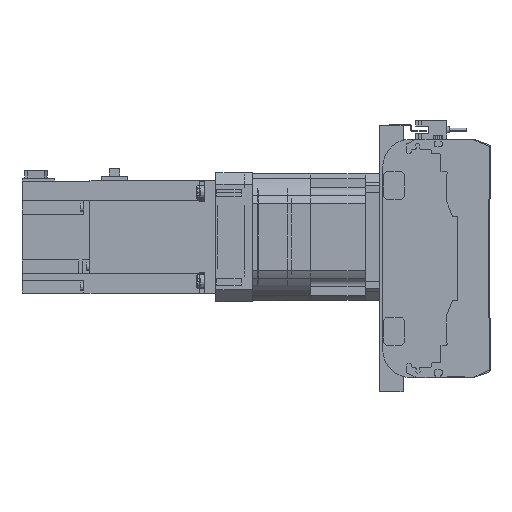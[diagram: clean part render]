
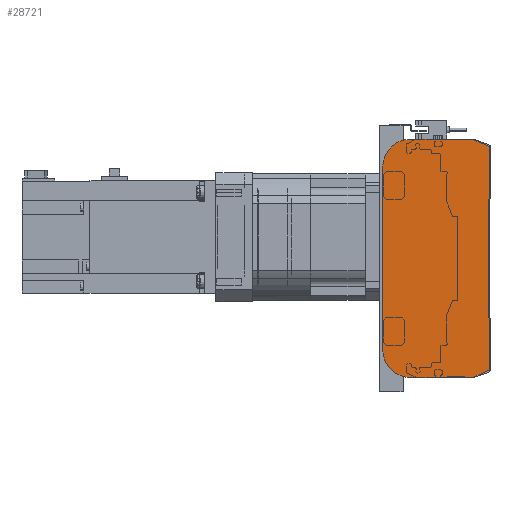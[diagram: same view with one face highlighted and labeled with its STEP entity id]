
A CAD part, left-side view. The second image highlights one B-rep face of the part: STEP entity #28721.
In plain terms, the highlighted planar face has unit normal (-1, 0, 0).
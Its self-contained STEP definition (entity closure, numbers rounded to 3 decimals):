
#2301=CIRCLE('',#31405,2.);
#2302=CIRCLE('',#31408,2.);
#2303=CIRCLE('',#31411,20.);
#2304=CIRCLE('',#31414,20.);
#8202=ORIENTED_EDGE('',*,*,#13903,.F.);
#8203=ORIENTED_EDGE('',*,*,#13981,.F.);
#8204=ORIENTED_EDGE('',*,*,#13979,.F.);
#8205=ORIENTED_EDGE('',*,*,#13977,.F.);
#8206=ORIENTED_EDGE('',*,*,#13640,.F.);
#8207=ORIENTED_EDGE('',*,*,#13976,.F.);
#8208=ORIENTED_EDGE('',*,*,#13974,.F.);
#8209=ORIENTED_EDGE('',*,*,#13972,.F.);
#8210=ORIENTED_EDGE('',*,*,#13970,.F.);
#8211=ORIENTED_EDGE('',*,*,#13968,.F.);
#13640=EDGE_CURVE('',#16814,#16815,#19224,.T.);
#13903=EDGE_CURVE('',#16886,#16887,#19338,.T.);
#13968=EDGE_CURVE('',#16887,#16928,#19383,.T.);
#13970=EDGE_CURVE('',#16928,#16929,#2301,.T.);
#13972=EDGE_CURVE('',#16929,#16930,#19386,.T.);
#13974=EDGE_CURVE('',#16930,#16931,#2302,.T.);
#13976=EDGE_CURVE('',#16931,#16814,#19389,.T.);
#13977=EDGE_CURVE('',#16815,#16932,#2303,.T.);
#13979=EDGE_CURVE('',#16932,#16933,#19391,.T.);
#13981=EDGE_CURVE('',#16933,#16886,#2304,.T.);
#16814=VERTEX_POINT('',#48814);
#16815=VERTEX_POINT('',#48816);
#16886=VERTEX_POINT('',#49202);
#16887=VERTEX_POINT('',#49204);
#16928=VERTEX_POINT('',#49334);
#16929=VERTEX_POINT('',#49338);
#16930=VERTEX_POINT('',#49342);
#16931=VERTEX_POINT('',#49346);
#16932=VERTEX_POINT('',#49352);
#16933=VERTEX_POINT('',#49356);
#19224=LINE('',#48815,#21533);
#19338=LINE('',#49203,#21647);
#19383=LINE('',#49333,#21692);
#19386=LINE('',#49341,#21695);
#19389=LINE('',#49349,#21698);
#19391=LINE('',#49355,#21700);
#21533=VECTOR('',#37975,1000.);
#21647=VECTOR('',#38493,1000.);
#21692=VECTOR('',#38626,1000.);
#21695=VECTOR('',#38635,1000.);
#21698=VECTOR('',#38644,1000.);
#21700=VECTOR('',#38652,1000.);
#23520=EDGE_LOOP('',(#8202,#8203,#8204,#8205,#8206,#8207,#8208,#8209,#8210,
#8211));
#25897=FACE_BOUND('',#23520,.T.);
#27334=PLANE('',#31416);
#28721=ADVANCED_FACE('',(#25897),#27334,.F.);
#31405=AXIS2_PLACEMENT_3D('',#49337,#38630,#38631);
#31408=AXIS2_PLACEMENT_3D('',#49345,#38639,#38640);
#31411=AXIS2_PLACEMENT_3D('',#49351,#38647,#38648);
#31414=AXIS2_PLACEMENT_3D('',#49359,#38656,#38657);
#31416=AXIS2_PLACEMENT_3D('',#49361,#38660,#38661);
#37975=DIRECTION('',(0.,1.,0.));
#38493=DIRECTION('',(0.,-1.,0.));
#38626=DIRECTION('',(0.,-0.913,-0.408));
#38630=DIRECTION('',(1.,0.,0.));
#38631=DIRECTION('',(0.,0.,-1.));
#38635=DIRECTION('',(0.,0.,-1.));
#38639=DIRECTION('',(1.,0.,0.));
#38640=DIRECTION('',(0.,0.,-1.));
#38644=DIRECTION('',(0.,0.913,-0.408));
#38647=DIRECTION('',(1.,0.,0.));
#38648=DIRECTION('',(0.,0.,-1.));
#38652=DIRECTION('',(0.,0.,1.));
#38656=DIRECTION('',(1.,0.,0.));
#38657=DIRECTION('',(0.,0.,-1.));
#38660=DIRECTION('',(1.,0.,0.));
#38661=DIRECTION('',(0.,0.,-1.));
#48814=CARTESIAN_POINT('',(0.,12.33,-85.));
#48815=CARTESIAN_POINT('',(0.,12.33,-85.));
#48816=CARTESIAN_POINT('',(0.,56.5,-85.));
#49202=CARTESIAN_POINT('',(0.,56.5,85.));
#49203=CARTESIAN_POINT('',(0.,56.5,85.));
#49204=CARTESIAN_POINT('',(0.,12.33,85.));
#49333=CARTESIAN_POINT('',(0.,12.33,85.));
#49334=CARTESIAN_POINT('',(0.,1.684,80.239));
#49337=CARTESIAN_POINT('',(0.,2.5,78.413));
#49338=CARTESIAN_POINT('',(0.,0.5,78.413));
#49341=CARTESIAN_POINT('',(0.,0.5,78.413));
#49342=CARTESIAN_POINT('',(0.,0.5,-78.413));
#49345=CARTESIAN_POINT('',(0.,2.5,-78.413));
#49346=CARTESIAN_POINT('',(0.,1.684,-80.239));
#49349=CARTESIAN_POINT('',(0.,1.684,-80.239));
#49351=CARTESIAN_POINT('',(0.,56.5,-65.));
#49352=CARTESIAN_POINT('',(0.,76.5,-65.));
#49355=CARTESIAN_POINT('',(0.,76.5,-65.));
#49356=CARTESIAN_POINT('',(0.,76.5,65.));
#49359=CARTESIAN_POINT('',(0.,56.5,65.));
#49361=CARTESIAN_POINT('',(0.,2.5,78.413));
